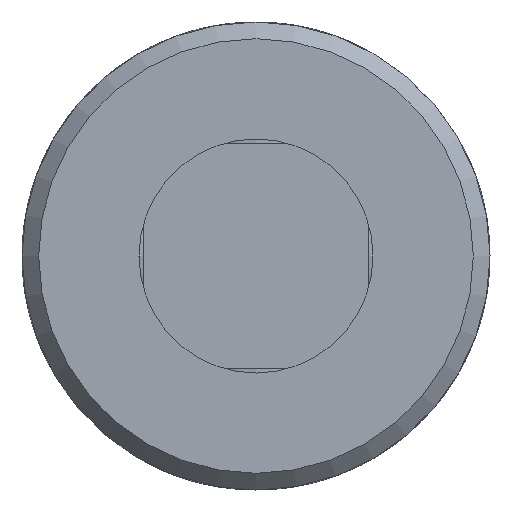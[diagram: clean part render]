
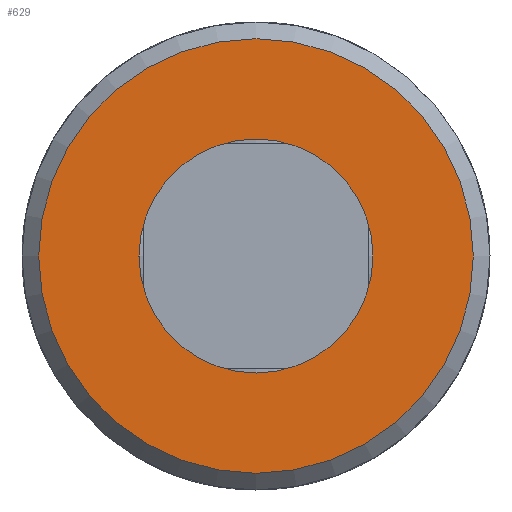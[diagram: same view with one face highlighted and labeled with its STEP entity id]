
A CAD part, front view. The second image highlights one B-rep face of the part: STEP entity #629.
In plain terms, the highlighted planar face has unit normal (0, -1, 0).
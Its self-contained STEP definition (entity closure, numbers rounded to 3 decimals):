
#121=PLANE('',#688);
#147=FACE_BOUND('',#231,.T.);
#174=FACE_OUTER_BOUND('',#230,.T.);
#230=EDGE_LOOP('',(#498));
#231=EDGE_LOOP('',(#499));
#275=CIRCLE('',#683,7.);
#277=CIRCLE('',#686,13.);
#314=VERTEX_POINT('',#976);
#316=VERTEX_POINT('',#981);
#380=EDGE_CURVE('',#314,#314,#275,.T.);
#382=EDGE_CURVE('',#316,#316,#277,.T.);
#498=ORIENTED_EDGE('',*,*,#382,.F.);
#499=ORIENTED_EDGE('',*,*,#380,.T.);
#629=ADVANCED_FACE('',(#174,#147),#121,.F.);
#683=AXIS2_PLACEMENT_3D('',#977,#801,#802);
#686=AXIS2_PLACEMENT_3D('',#982,#807,#808);
#688=AXIS2_PLACEMENT_3D('',#1158,#815,#816);
#801=DIRECTION('center_axis',(0.,1.,0.));
#802=DIRECTION('ref_axis',(-1.,0.,0.));
#807=DIRECTION('center_axis',(0.,1.,0.));
#808=DIRECTION('ref_axis',(1.,0.,0.));
#815=DIRECTION('center_axis',(0.,1.,0.));
#816=DIRECTION('ref_axis',(0.,0.,1.));
#976=CARTESIAN_POINT('',(7.,-36.5,0.));
#977=CARTESIAN_POINT('Origin',(0.,-36.5,0.));
#981=CARTESIAN_POINT('',(-13.,-36.5,0.));
#982=CARTESIAN_POINT('Origin',(0.,-36.5,0.));
#1158=CARTESIAN_POINT('Origin',(0.,-36.5,0.));
